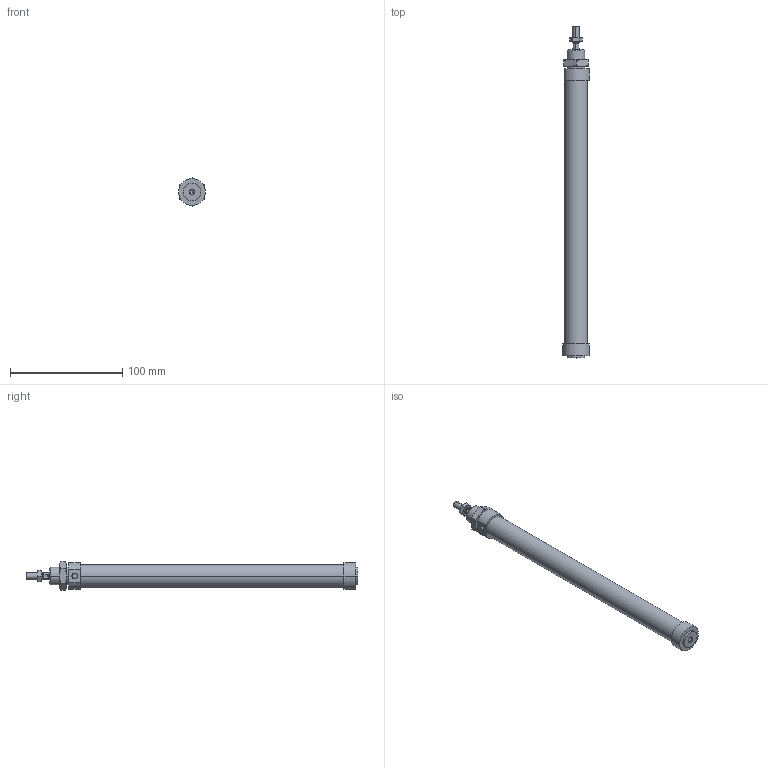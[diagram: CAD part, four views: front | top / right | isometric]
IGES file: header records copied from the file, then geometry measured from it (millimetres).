
Global section: file name: No Iges File Name specified; native system: AutoDesk Inventor R6.0; preprocessor: AutoDesk Inventor Iges Exporter R6.0; author: No Author specified; organization: No Organization specified; date: 20030402.184224; units: millimetre
Bounding box: 24 x 296 x 25.4 mm (x, y, z)
Volume: 89127.1 mm3; surface area: 29068 mm2
Topology: 4 solids, 4 shells, 108 faces, 229 edges, 135 vertices
Faces by surface type: cone 34, plane 33, bspline 21, cylinder 16, revolution 4
